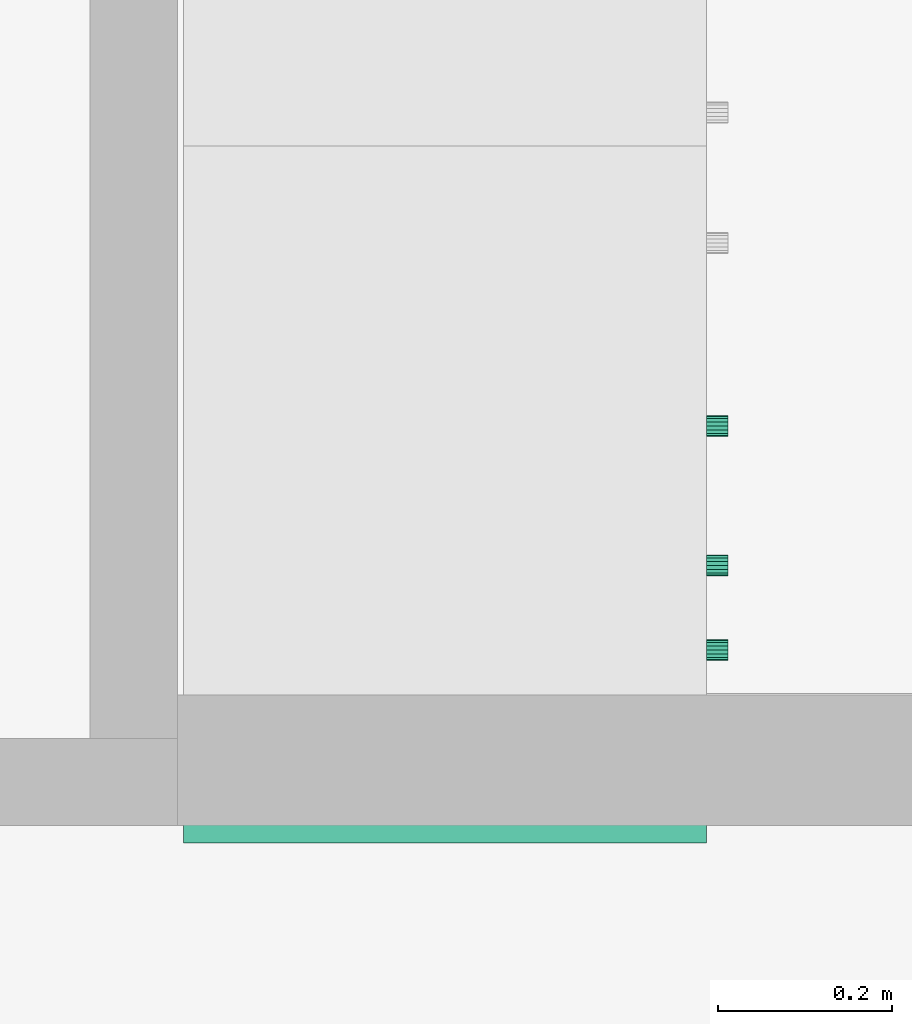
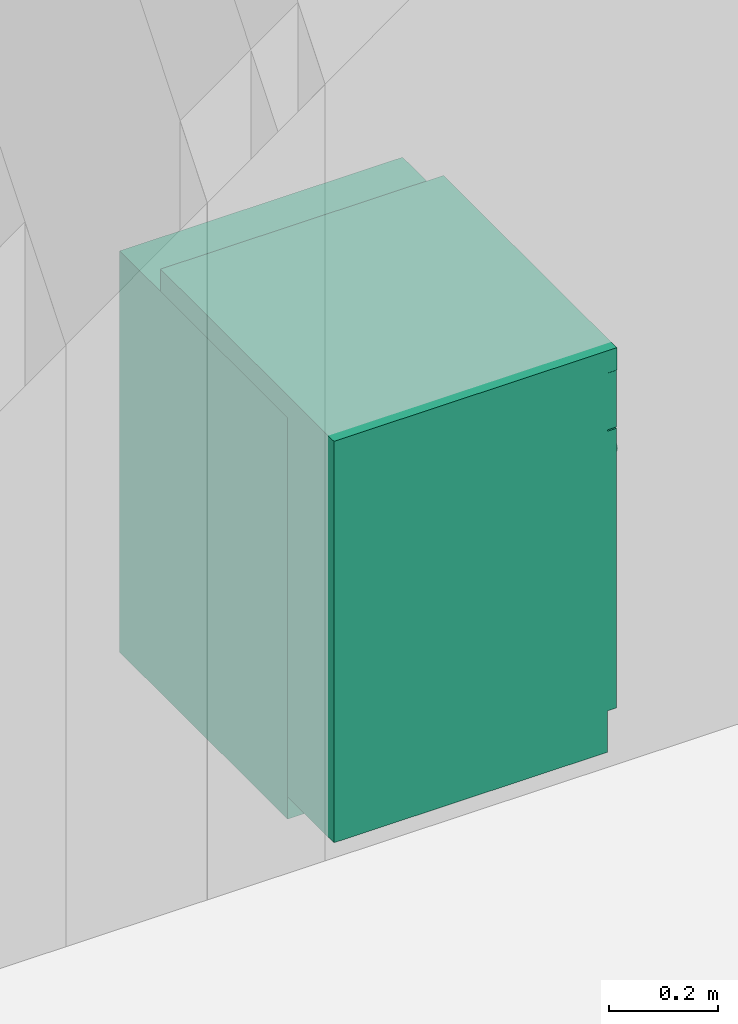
# One storey, part 51 of 165: 2 flow terminals.
"""IFC2X3 building model written with IfcOpenShell, lengths in millimetres."""

from ifc_helpers import new_model, entity, si_unit, converted_unit, money_unit, direction, frame, origin_with_axes, place, context, subcontext, project, spatial, faceted_brep, material, material_list, type_object, element, save


model = new_model("IFC2X3")

# Units and contexts
model_context = context("Model", 3, precision=1e-05, world=origin_with_axes(), true_north=direction((0.0, 1.0)))
body_context = subcontext(model_context, "Body", "Model", "MODEL_VIEW")
ifc_project = project(units=[si_unit("LENGTHUNIT", "METRE", prefix="MILLI"), si_unit("AREAUNIT", "SQUARE_METRE"), si_unit("VOLUMEUNIT", "CUBIC_METRE"), converted_unit("PLANEANGLEUNIT", "DEGREE", entity("IfcPlaneAngleMeasure", 0.0174532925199), si_unit("PLANEANGLEUNIT", "RADIAN"), dimensions=[0, 0, 0, 0, 0, 0, 0]), si_unit("SOLIDANGLEUNIT", "STERADIAN"), money_unit("USD"), converted_unit("TIMEUNIT", "Year", entity("IfcTimeMeasure", 31556926.0), si_unit("TIMEUNIT", "SECOND"), dimensions=[0, 0, 0, 0, 0, 0, 0]), si_unit("MASSUNIT", "GRAM"), si_unit("THERMODYNAMICTEMPERATUREUNIT", "DEGREE_CELSIUS"), si_unit("LUMINOUSINTENSITYUNIT", "LUMEN")], contexts=[model_context])

# Site, building, storey
site_placement = place(None, origin_with_axes())
site = spatial("IfcSite", under=ifc_project, at=site_placement, Name="Site", CompositionType="ELEMENT")
building_placement = place(site_placement, origin_with_axes())
building = spatial("IfcBuilding", under=site, at=building_placement, Name="Building", CompositionType="ELEMENT")
storey_placement = place(building_placement, frame((0.0, 0.0, 6300.0), z_axis=(0.0, 0.0, 1.0), x_axis=(1.0, 0.0, 0.0)))
storey = spatial("IfcBuildingStorey", under=building, at=storey_placement, Name="4KORRUS", CompositionType="ELEMENT", Elevation=6300.0)

# Flow terminals
ifc_material = material(Name="Background")
ifc_material_list = material_list([ifc_material])
sanitary_terminal_type = type_object("IfcSanitaryTerminalType", Name="Cabinet Base Single Door 19", PredefinedType="SINK")
flow_terminal_1_placement = place(storey_placement, frame((866.697734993, -10519.6268789, 50.0), z_axis=(0.0, 0.0, 1.0), x_axis=(0.0, 1.0, 0.0)))
element("IfcFlowTerminal", 1, at=flow_terminal_1_placement, inside=storey, type_object=sanitary_terminal_type, material=ifc_material_list, Name="FU - 007", context=body_context, shape_type="Brep", body=[
    faceted_brep([(-20.0, 20.0, 710.0), (-20.0, 20.0, 730.0), (-616.859, 20.0, 730.0), (-616.859, 20.0, 710.0), (-20.0, 580.0, 710.0), (-20.0, 580.0, 730.0), (-616.859, 580.0, 730.0), (-616.859, 580.0, 710.0)], [[[0, 1, 2, 3]], [[4, 5, 1, 0]], [[1, 5, 6, 2]], [[3, 2, 6, 7]], [[0, 3, 7, 4]], [[7, 6, 5, 4]]]),
    faceted_brep([(0.0, 20.0, 0.0), (0.0, 20.0, 90.0), (-636.859, 20.0, 90.0), (-636.859, 20.0, 0.0), (0.0, 600.0, 0.0), (0.0, 600.0, 90.0), (-636.859, 600.0, 90.0), (-636.859, 600.0, 0.0)], [[[0, 1, 2, 3]], [[4, 5, 1, 0]], [[1, 5, 6, 2]], [[3, 2, 6, 7]], [[0, 3, 7, 4]], [[7, 6, 5, 4]]]),
    faceted_brep([(0.0, 20.0, 830.0), (0.0, 20.0, 850.0), (-20.0, 20.0, 850.0), (-20.0, 20.0, 830.0), (0.0, 600.0, 830.0), (0.0, 600.0, 850.0), (-20.0, 600.0, 850.0), (-616.859, 600.0, 850.0), (-636.859, 600.0, 850.0), (-636.859, 20.0, 850.0), (-616.859, 20.0, 850.0), (-616.859, 20.0, 830.0), (-636.859, 20.0, 830.0), (-636.859, 600.0, 830.0), (-616.859, 600.0, 830.0), (-20.0, 600.0, 830.0)], [[[0, 1, 2, 3]], [[4, 5, 1, 0]], [[1, 5, 6, 7, 8, 9, 10, 2]], [[3, 2, 10, 11]], [[0, 3, 11, 12, 13, 14, 15, 4]], [[15, 6, 5, 4]], [[14, 7, 6, 15]], [[13, 8, 7, 14]], [[12, 9, 8, 13]], [[11, 10, 9, 12]]]),
    faceted_brep([(0.0, 20.0, 90.0), (0.0, 20.0, 110.0), (-20.0, 20.0, 110.0), (-20.0, 20.0, 90.0), (0.0, 600.0, 90.0), (0.0, 600.0, 110.0), (-20.0, 600.0, 110.0), (-616.859, 600.0, 110.0), (-636.859, 600.0, 110.0), (-636.859, 20.0, 110.0), (-616.859, 20.0, 110.0), (-616.859, 20.0, 90.0), (-636.859, 20.0, 90.0), (-636.859, 600.0, 90.0), (-616.859, 600.0, 90.0), (-20.0, 600.0, 90.0)], [[[0, 1, 2, 3]], [[4, 5, 1, 0]], [[1, 5, 6, 7, 8, 9, 10, 2]], [[3, 2, 10, 11]], [[0, 3, 11, 12, 13, 14, 15, 4]], [[15, 6, 5, 4]], [[14, 7, 6, 15]], [[13, 8, 7, 14]], [[12, 9, 8, 13]], [[11, 10, 9, 12]]]),
    faceted_brep([(0.0, 20.0, 110.0), (0.0, 20.0, 830.0), (-20.0, 20.0, 830.0), (-20.0, 20.0, 110.0), (0.0, 600.0, 110.0), (0.0, 600.0, 830.0), (-636.859, 600.0, 830.0), (-636.859, 20.0, 830.0), (-616.859, 20.0, 830.0), (-616.859, 580.0, 830.0), (-20.0, 580.0, 830.0), (-20.0, 580.0, 110.0), (-616.859, 580.0, 110.0), (-616.859, 20.0, 110.0), (-636.859, 20.0, 110.0), (-636.859, 600.0, 110.0)], [[[0, 1, 2, 3]], [[4, 5, 1, 0]], [[1, 5, 6, 7, 8, 9, 10, 2]], [[3, 2, 10, 11]], [[0, 3, 11, 12, 13, 14, 15, 4]], [[15, 6, 5, 4]], [[14, 7, 6, 15]], [[13, 8, 7, 14]], [[12, 9, 8, 13]], [[11, 10, 9, 12]]]),
    faceted_brep([(-616.859, 20.0, 385.0), (-616.859, 20.0, 405.0), (-616.859, 580.0, 405.0), (-616.859, 580.0, 385.0), (-20.0, 20.0, 385.0), (-20.0, 20.0, 405.0), (-20.0, 580.0, 405.0), (-20.0, 580.0, 385.0)], [[[0, 1, 2, 3]], [[4, 5, 1, 0]], [[1, 5, 6, 2]], [[3, 2, 6, 7]], [[0, 3, 7, 4]], [[7, 6, 5, 4]]]),
    faceted_brep([(0.0, 0.0, 850.0), (0.0, 0.0, 900.0), (-636.859, 0.0, 900.0), (-636.859, 0.0, 850.0), (0.0, 600.0, 850.0), (0.0, 600.0, 900.0), (-636.859, 600.0, 900.0), (-636.859, 600.0, 850.0)], [[[0, 1, 2, 3]], [[4, 5, 1, 0]], [[1, 5, 6, 2]], [[3, 2, 6, 7]], [[0, 3, 7, 4]], [[7, 6, 5, 4]]]),
    faceted_brep([(-1.5, 20.0, 721.5), (-1.5, 0.0, 721.5), (-635.359, 0.0, 721.5), (-635.359, 20.0, 721.5), (-1.5, 20.0, 848.5), (-1.5, 0.0, 848.5), (-635.359, 0.0, 848.5), (-635.359, 20.0, 848.5)], [[[0, 1, 2, 3]], [[4, 5, 1, 0]], [[1, 5, 6, 2]], [[3, 2, 6, 7]], [[0, 3, 7, 4]], [[7, 6, 5, 4]]]),
    faceted_brep([(-313.837, 0.0, 773.913), (-318.43, 0.0, 773.0), (-323.022, 0.0, 773.913), (-326.915, 0.0, 776.515), (-329.516, 0.0, 780.408), (-330.43, 0.0, 785.0), (-329.516, 0.0, 789.592), (-326.915, 0.0, 793.485), (-323.022, 0.0, 796.087), (-318.43, 0.0, 797.0), (-313.837, 0.0, 796.087), (-309.944, 0.0, 793.485), (-307.343, 0.0, 789.592), (-306.43, 0.0, 785.0), (-307.343, 0.0, 780.408), (-309.944, 0.0, 776.515), (-313.837, -25.0, 773.913), (-318.43, -25.0, 773.0), (-323.022, -25.0, 773.913), (-326.915, -25.0, 776.515), (-329.516, -25.0, 780.408), (-330.43, -25.0, 785.0), (-329.516, -25.0, 789.592), (-326.915, -25.0, 793.485), (-323.022, -25.0, 796.087), (-318.43, -25.0, 797.0), (-313.837, -25.0, 796.087), (-309.944, -25.0, 793.485), (-307.343, -25.0, 789.592), (-306.43, -25.0, 785.0), (-307.343, -25.0, 780.408), (-309.944, -25.0, 776.515)], [[[0, 1, 2, 3, 4, 5, 6, 7, 8, 9, 10, 11, 12, 13, 14, 15]], [[0, 16, 17, 1]], [[1, 17, 18, 2]], [[2, 18, 19, 3]], [[3, 19, 20, 4]], [[4, 20, 21, 5]], [[5, 21, 22, 6]], [[6, 22, 23, 7]], [[7, 23, 24, 8]], [[8, 24, 25, 9]], [[9, 25, 26, 10]], [[10, 26, 27, 11]], [[11, 27, 28, 12]], [[12, 28, 29, 13]], [[13, 29, 30, 14]], [[14, 30, 31, 15]], [[15, 31, 16, 0]], [[16, 31, 30, 29, 28, 27, 26, 25, 24, 23, 22, 21, 20, 19, 18, 17]]]),
    faceted_brep([(-1.5, 20.0, 91.5), (-1.5, 0.0, 91.5), (-635.359, 0.0, 91.5), (-635.359, 20.0, 91.5), (-1.5, 20.0, 718.5), (-1.5, 0.0, 718.5), (-635.359, 0.0, 718.5), (-635.359, 20.0, 718.5)], [[[0, 1, 2, 3]], [[4, 5, 1, 0]], [[1, 5, 6, 2]], [[3, 2, 6, 7]], [[0, 3, 7, 4]], [[7, 6, 5, 4]]]),
    faceted_brep([(-596.446, 0.0, 636.908), (-597.359, 0.0, 641.5), (-596.446, 0.0, 646.092), (-593.844, 0.0, 649.985), (-589.951, 0.0, 652.587), (-585.359, 0.0, 653.5), (-580.767, 0.0, 652.587), (-576.874, 0.0, 649.985), (-574.273, 0.0, 646.092), (-573.359, 0.0, 641.5), (-574.273, 0.0, 636.908), (-576.874, 0.0, 633.015), (-580.767, 0.0, 630.413), (-585.359, 0.0, 629.5), (-589.951, 0.0, 630.413), (-593.844, 0.0, 633.015), (-596.446, -25.0, 636.908), (-597.359, -25.0, 641.5), (-596.446, -25.0, 646.092), (-593.844, -25.0, 649.985), (-589.951, -25.0, 652.587), (-585.359, -25.0, 653.5), (-580.767, -25.0, 652.587), (-576.874, -25.0, 649.985), (-574.273, -25.0, 646.092), (-573.359, -25.0, 641.5), (-574.273, -25.0, 636.908), (-576.874, -25.0, 633.015), (-580.767, -25.0, 630.413), (-585.359, -25.0, 629.5), (-589.951, -25.0, 630.413), (-593.844, -25.0, 633.015)], [[[0, 1, 2, 3, 4, 5, 6, 7, 8, 9, 10, 11, 12, 13, 14, 15]], [[0, 16, 17, 1]], [[1, 17, 18, 2]], [[2, 18, 19, 3]], [[3, 19, 20, 4]], [[4, 20, 21, 5]], [[5, 21, 22, 6]], [[6, 22, 23, 7]], [[7, 23, 24, 8]], [[8, 24, 25, 9]], [[9, 25, 26, 10]], [[10, 26, 27, 11]], [[11, 27, 28, 12]], [[12, 28, 29, 13]], [[13, 29, 30, 14]], [[14, 30, 31, 15]], [[15, 31, 16, 0]], [[16, 31, 30, 29, 28, 27, 26, 25, 24, 23, 22, 21, 20, 19, 18, 17]]]),
])
flow_terminal_2_placement = place(storey_placement, frame((866.697734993, -10369.6268789, 0.0), z_axis=(0.0, 0.0, 1.0), x_axis=(0.0, 1.0, 0.0)))
element("IfcFlowTerminal", 2, at=flow_terminal_2_placement, inside=storey, type_object=sanitary_terminal_type, material=ifc_material_list, Name="FU - 007", context=body_context, shape_type="Brep", body=[
    faceted_brep([(-20.0, 20.0, 710.0), (-20.0, 20.0, 730.0), (-596.977, 20.0, 730.0), (-596.977, 20.0, 710.0), (-20.0, 580.0, 710.0), (-20.0, 580.0, 730.0), (-596.977, 580.0, 730.0), (-596.977, 580.0, 710.0)], [[[0, 1, 2, 3]], [[4, 5, 1, 0]], [[1, 5, 6, 2]], [[3, 2, 6, 7]], [[0, 3, 7, 4]], [[7, 6, 5, 4]]]),
    faceted_brep([(0.0, 20.0, 0.0), (0.0, 20.0, 90.0), (-616.977, 20.0, 90.0), (-616.977, 20.0, 0.0), (0.0, 600.0, 0.0), (0.0, 600.0, 90.0), (-616.977, 600.0, 90.0), (-616.977, 600.0, 0.0)], [[[0, 1, 2, 3]], [[4, 5, 1, 0]], [[1, 5, 6, 2]], [[3, 2, 6, 7]], [[0, 3, 7, 4]], [[7, 6, 5, 4]]]),
    faceted_brep([(0.0, 20.0, 830.0), (0.0, 20.0, 850.0), (-20.0, 20.0, 850.0), (-20.0, 20.0, 830.0), (0.0, 600.0, 830.0), (0.0, 600.0, 850.0), (-20.0, 600.0, 850.0), (-596.977, 600.0, 850.0), (-616.977, 600.0, 850.0), (-616.977, 20.0, 850.0), (-596.977, 20.0, 850.0), (-596.977, 20.0, 830.0), (-616.977, 20.0, 830.0), (-616.977, 600.0, 830.0), (-596.977, 600.0, 830.0), (-20.0, 600.0, 830.0)], [[[0, 1, 2, 3]], [[4, 5, 1, 0]], [[1, 5, 6, 7, 8, 9, 10, 2]], [[3, 2, 10, 11]], [[0, 3, 11, 12, 13, 14, 15, 4]], [[15, 6, 5, 4]], [[14, 7, 6, 15]], [[13, 8, 7, 14]], [[12, 9, 8, 13]], [[11, 10, 9, 12]]]),
    faceted_brep([(0.0, 20.0, 90.0), (0.0, 20.0, 110.0), (-20.0, 20.0, 110.0), (-20.0, 20.0, 90.0), (0.0, 600.0, 90.0), (0.0, 600.0, 110.0), (-20.0, 600.0, 110.0), (-596.977, 600.0, 110.0), (-616.977, 600.0, 110.0), (-616.977, 20.0, 110.0), (-596.977, 20.0, 110.0), (-596.977, 20.0, 90.0), (-616.977, 20.0, 90.0), (-616.977, 600.0, 90.0), (-596.977, 600.0, 90.0), (-20.0, 600.0, 90.0)], [[[0, 1, 2, 3]], [[4, 5, 1, 0]], [[1, 5, 6, 7, 8, 9, 10, 2]], [[3, 2, 10, 11]], [[0, 3, 11, 12, 13, 14, 15, 4]], [[15, 6, 5, 4]], [[14, 7, 6, 15]], [[13, 8, 7, 14]], [[12, 9, 8, 13]], [[11, 10, 9, 12]]]),
    faceted_brep([(0.0, 20.0, 110.0), (0.0, 20.0, 830.0), (-20.0, 20.0, 830.0), (-20.0, 20.0, 110.0), (0.0, 600.0, 110.0), (0.0, 600.0, 830.0), (-616.977, 600.0, 830.0), (-616.977, 20.0, 830.0), (-596.977, 20.0, 830.0), (-596.977, 580.0, 830.0), (-20.0, 580.0, 830.0), (-20.0, 580.0, 110.0), (-596.977, 580.0, 110.0), (-596.977, 20.0, 110.0), (-616.977, 20.0, 110.0), (-616.977, 600.0, 110.0)], [[[0, 1, 2, 3]], [[4, 5, 1, 0]], [[1, 5, 6, 7, 8, 9, 10, 2]], [[3, 2, 10, 11]], [[0, 3, 11, 12, 13, 14, 15, 4]], [[15, 6, 5, 4]], [[14, 7, 6, 15]], [[13, 8, 7, 14]], [[12, 9, 8, 13]], [[11, 10, 9, 12]]]),
    faceted_brep([(-596.977, 20.0, 385.0), (-596.977, 20.0, 405.0), (-596.977, 580.0, 405.0), (-596.977, 580.0, 385.0), (-20.0, 20.0, 385.0), (-20.0, 20.0, 405.0), (-20.0, 580.0, 405.0), (-20.0, 580.0, 385.0)], [[[0, 1, 2, 3]], [[4, 5, 1, 0]], [[1, 5, 6, 2]], [[3, 2, 6, 7]], [[0, 3, 7, 4]], [[7, 6, 5, 4]]]),
    faceted_brep([(0.0, 0.0, 850.0), (0.0, 0.0, 900.0), (-616.977, 0.0, 900.0), (-616.977, 0.0, 850.0), (0.0, 600.0, 850.0), (0.0, 600.0, 900.0), (-616.977, 600.0, 900.0), (-616.977, 600.0, 850.0)], [[[0, 1, 2, 3]], [[4, 5, 1, 0]], [[1, 5, 6, 2]], [[3, 2, 6, 7]], [[0, 3, 7, 4]], [[7, 6, 5, 4]]]),
    faceted_brep([(-1.5, 20.0, 721.5), (-1.5, 0.0, 721.5), (-615.477, 0.0, 721.5), (-615.477, 20.0, 721.5), (-1.5, 20.0, 848.5), (-1.5, 0.0, 848.5), (-615.477, 0.0, 848.5), (-615.477, 20.0, 848.5)], [[[0, 1, 2, 3]], [[4, 5, 1, 0]], [[1, 5, 6, 2]], [[3, 2, 6, 7]], [[0, 3, 7, 4]], [[7, 6, 5, 4]]]),
    faceted_brep([(-303.896, 0.0, 773.913), (-308.489, 0.0, 773.0), (-313.081, 0.0, 773.913), (-316.974, 0.0, 776.515), (-319.575, 0.0, 780.408), (-320.489, 0.0, 785.0), (-319.575, 0.0, 789.592), (-316.974, 0.0, 793.485), (-313.081, 0.0, 796.087), (-308.489, 0.0, 797.0), (-303.896, 0.0, 796.087), (-300.003, 0.0, 793.485), (-297.402, 0.0, 789.592), (-296.489, 0.0, 785.0), (-297.402, 0.0, 780.408), (-300.003, 0.0, 776.515), (-303.896, -25.0, 773.913), (-308.489, -25.0, 773.0), (-313.081, -25.0, 773.913), (-316.974, -25.0, 776.515), (-319.575, -25.0, 780.408), (-320.489, -25.0, 785.0), (-319.575, -25.0, 789.592), (-316.974, -25.0, 793.485), (-313.081, -25.0, 796.087), (-308.489, -25.0, 797.0), (-303.896, -25.0, 796.087), (-300.003, -25.0, 793.485), (-297.402, -25.0, 789.592), (-296.489, -25.0, 785.0), (-297.402, -25.0, 780.408), (-300.003, -25.0, 776.515)], [[[0, 1, 2, 3, 4, 5, 6, 7, 8, 9, 10, 11, 12, 13, 14, 15]], [[0, 16, 17, 1]], [[1, 17, 18, 2]], [[2, 18, 19, 3]], [[3, 19, 20, 4]], [[4, 20, 21, 5]], [[5, 21, 22, 6]], [[6, 22, 23, 7]], [[7, 23, 24, 8]], [[8, 24, 25, 9]], [[9, 25, 26, 10]], [[10, 26, 27, 11]], [[11, 27, 28, 12]], [[12, 28, 29, 13]], [[13, 29, 30, 14]], [[14, 30, 31, 15]], [[15, 31, 16, 0]], [[16, 31, 30, 29, 28, 27, 26, 25, 24, 23, 22, 21, 20, 19, 18, 17]]]),
    faceted_brep([(-1.5, 20.0, 91.5), (-1.5, 0.0, 91.5), (-615.477, 0.0, 91.5), (-615.477, 20.0, 91.5), (-1.5, 20.0, 718.5), (-1.5, 0.0, 718.5), (-615.477, 0.0, 718.5), (-615.477, 20.0, 718.5)], [[[0, 1, 2, 3]], [[4, 5, 1, 0]], [[1, 5, 6, 2]], [[3, 2, 6, 7]], [[0, 3, 7, 4]], [[7, 6, 5, 4]]]),
    faceted_brep([(-576.564, 0.0, 636.908), (-577.477, 0.0, 641.5), (-576.564, 0.0, 646.092), (-573.963, 0.0, 649.985), (-570.069, 0.0, 652.587), (-565.477, 0.0, 653.5), (-560.885, 0.0, 652.587), (-556.992, 0.0, 649.985), (-554.391, 0.0, 646.092), (-553.477, 0.0, 641.5), (-554.391, 0.0, 636.908), (-556.992, 0.0, 633.015), (-560.885, 0.0, 630.413), (-565.477, 0.0, 629.5), (-570.069, 0.0, 630.413), (-573.963, 0.0, 633.015), (-576.564, -25.0, 636.908), (-577.477, -25.0, 641.5), (-576.564, -25.0, 646.092), (-573.963, -25.0, 649.985), (-570.069, -25.0, 652.587), (-565.477, -25.0, 653.5), (-560.885, -25.0, 652.587), (-556.992, -25.0, 649.985), (-554.391, -25.0, 646.092), (-553.477, -25.0, 641.5), (-554.391, -25.0, 636.908), (-556.992, -25.0, 633.015), (-560.885, -25.0, 630.413), (-565.477, -25.0, 629.5), (-570.069, -25.0, 630.413), (-573.963, -25.0, 633.015)], [[[0, 1, 2, 3, 4, 5, 6, 7, 8, 9, 10, 11, 12, 13, 14, 15]], [[0, 16, 17, 1]], [[1, 17, 18, 2]], [[2, 18, 19, 3]], [[3, 19, 20, 4]], [[4, 20, 21, 5]], [[5, 21, 22, 6]], [[6, 22, 23, 7]], [[7, 23, 24, 8]], [[8, 24, 25, 9]], [[9, 25, 26, 10]], [[10, 26, 27, 11]], [[11, 27, 28, 12]], [[12, 28, 29, 13]], [[13, 29, 30, 14]], [[14, 30, 31, 15]], [[15, 31, 16, 0]], [[16, 31, 30, 29, 28, 27, 26, 25, 24, 23, 22, 21, 20, 19, 18, 17]]]),
])

save(model, "model.ifc")
